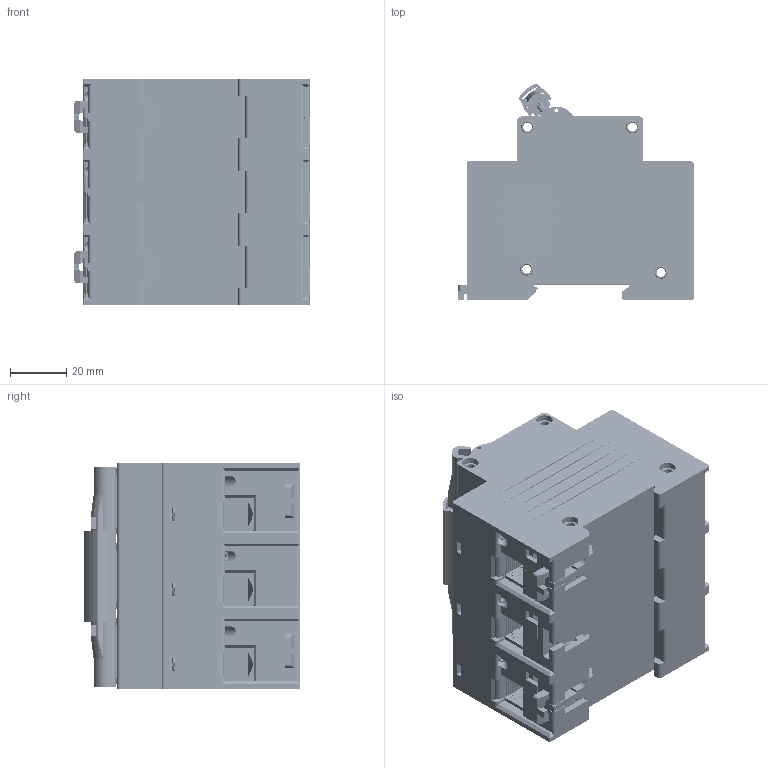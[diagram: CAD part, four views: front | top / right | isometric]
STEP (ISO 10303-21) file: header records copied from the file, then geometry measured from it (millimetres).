
FILE_DESCRIPTION (( 'STEP AP203' ), '1' );
FILE_NAME ('2YJ.292.2302.1-8 BKH-b塑壳断路器（3P）.STEP', '2018-04-08T00:45:43', ( 'User' ), ( 'Company' ), 'SwSTEP 2.0', 'SolidWorks 2013', '' );
FILE_SCHEMA (( 'CONFIG_CONTROL_DESIGN' ));
Length unit declared in the file: millimetre
Products named in the file (59): U倛种; 嘐隅え(綻詩祧); 5YJ.558.2300.1-8 諉揖炵苀_萵掛; 泐諶; 雄揖裝ㄗ狟ㄘ_萵掛; 諉盄え; 8YJ.0315.2301 盖（多极）; 耳1.5粣; 鏢說掑; 諉盄遺; 8YJ.551.2304 噙揖裝; 雄揖裝ㄗ奻ㄘ_萵掛; 线圈骨架; 芢裝; 鏢說欶; 蹟隊; 8YJ.550.2302  噙揖萸; 电磁系统（用于接触系统）; 雄沺陑; 8YJ.024.2300 等憤菁釱; 8YJ.024.2301 底座（多极）; 硌尨璃; 忒梟; 竘說え; 話裝; 噙沺陑; 8YJ.288.2302 缓冲件弹簧_工作状态; 8YJ.960.2300.1-4 穩隊_3P; 忒梟囀粟銅; 忒梟價釱; 噙揖芛_萵掛; 盓殤; 階裝; 遣喳璃; 忒梟杶ㄗ3Pㄘ; 8YJ.315.2300 等憤裔; 8YJ.288.2301 忒梟囀粟銅; 路說啣ㄗ狟ㄘ; 杶奪; 沺郋粟銅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
Assembly tree (118 placements, depth 5):
  2YJ.292.2302.1-8 BKH-b塑壳断路器（3P）
    8YJ.024.2300 等憤菁釱
    8YJ.288.2302 缓冲件弹簧_工作状态  x3
    遣喳璃  x3
    話裝粟銅  x3
    5YJ.558.2300.1-8 諉揖炵苀_萵掛  x3
      电磁系统（用于接触系统）
        棠濎
        8YJ.421.2300.1-2邧踢扽啋璃
        諉盄え
        沺郋郪璃_萵掛
          线圈骨架
          雄沺陑
          噙沺陑
          階裝
          沺郋粟銅
        线圈_副本
        雄揖裝ㄗ狟ㄘ_萵掛
        雄揖裝ㄗ奻ㄘ_萵掛
      話裝
      盓殤
      杶奪
      揖芛粟銅
      耳1.5粣_晦种
    諉盄遺  x3
    蹟隊  x3
    忒梟  x3
      忒梟
      忒梟價釱
      8YJ.288.2301 忒梟囀粟銅
    耳2粣  x6
    U倛种  x3
    耳1.5粣  x3
    坶諶  x3
    8YJ.288.2303 坶諶粟銅  x3
    泐諶  x3
    5YJ.574.2300.1-2 諉盄釱_萵掛  x3
      噙揖芛_萵掛
        8YJ.551.2304 噙揖裝
        8YJ.550.2302  噙揖萸
        竘說え
      路說啣ㄗ狟ㄘ
      路說啣ㄗ奻ㄘ
      諉盄遺
      蹟隊
    鏢說欶  x3
      嘐隅え(綻詩祧)
      鏢說掑
    硌尨璃  x3
    忒梟囀粟銅  x3
    8YJ.315.2300 等憤裔
    弝敦  x3
    覃誹蹟隊  x3
    假蚾縐  x2
    8YJ.0315.2301 盖（多极）  x2
    芢裝  x2
    8YJ.024.2301 底座（多极）  x2
    8YJ.960.2300.1-4 穩隊_3P  x4
    忒梟杶ㄗ3Pㄘ
    忒梟杶蜇璃
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Bounding box: 84 x 77.22 x 80.4 mm (x, y, z)
Volume: 181658.6 mm3; surface area: 271161.7 mm2
Topology: 175 solids, 175 shells, 10901 faces, 29261 edges, 18873 vertices
Faces by surface type: plane 7368, cylinder 2707, torus 295, cone 270, bspline 225, sphere 36
Entity records: 161936 total; most frequent: CARTESIAN_POINT 43297, ORIENTED_EDGE 23358, DIRECTION 22775, EDGE_CURVE 11679, LINE 8759, VECTOR 8759, VERTEX_POINT 7569, AXIS2_PLACEMENT_3D 7008
